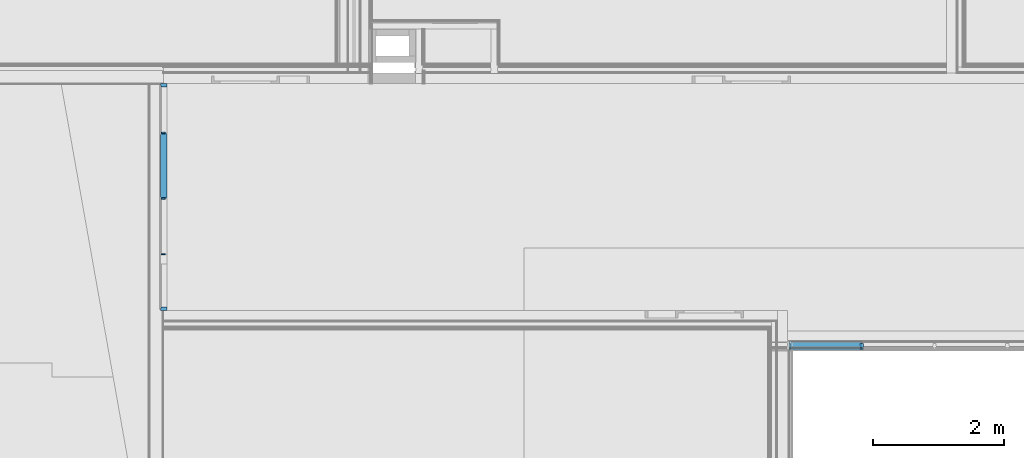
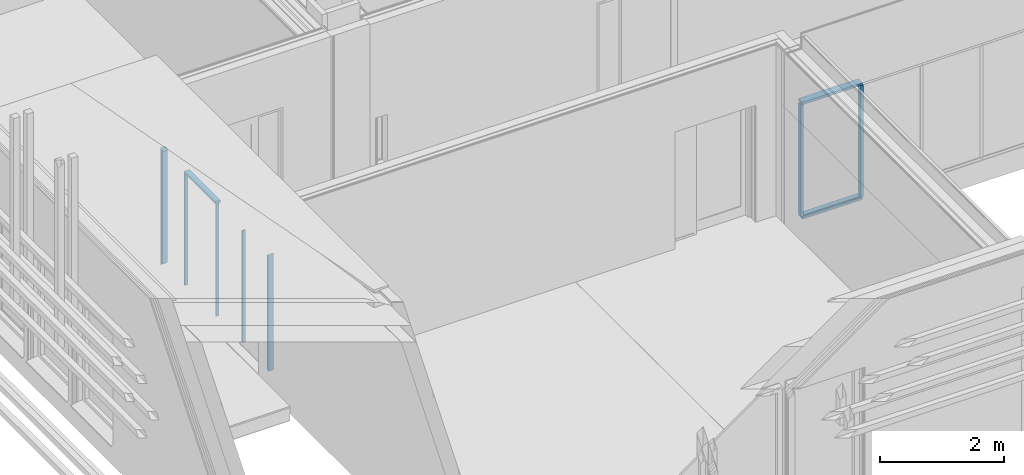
# One storey, part 5 of 139: 10 members, 2 elements without a shape of their own.
"""IFC2X3 building model written with IfcOpenShell, lengths in millimetres."""

from ifc_helpers import new_model, entity, si_unit, converted_unit, derived_unit, money_unit, direction, frame, origin_with_axes, place, context, subcontext, project, spatial, faceted_brep, source, transform, mapped, material, type_object, element, aggregate, save


model = new_model("IFC2X3")

# Units and contexts
model_context = context("Model", 3, precision=0.01, world=origin_with_axes(), true_north=direction((0.0, 1.0)))
body_context = subcontext(model_context, "Body", "Model", "MODEL_VIEW")
ifc_project = project(units=[si_unit("LENGTHUNIT", "METRE", prefix="MILLI"), si_unit("AREAUNIT", "SQUARE_METRE"), si_unit("VOLUMEUNIT", "CUBIC_METRE"), converted_unit("PLANEANGLEUNIT", "DEGREE", entity("IfcPlaneAngleMeasure", 0.0174532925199), si_unit("PLANEANGLEUNIT", "RADIAN"), dimensions=[0, 0, 0, 0, 0, 0, 0]), money_unit("EUR"), converted_unit("TIMEUNIT", "Year", entity("IfcTimeMeasure", 31556926.0), si_unit("TIMEUNIT", "SECOND"), dimensions=[0, 0, 1, 0, 0, 0, 0]), si_unit("MASSUNIT", "GRAM", prefix="KILO"), si_unit("THERMODYNAMICTEMPERATUREUNIT", "DEGREE_CELSIUS"), si_unit("LUMINOUSINTENSITYUNIT", "LUMEN"), si_unit("ENERGYUNIT", "JOULE", prefix="MEGA"), derived_unit("THERMALCONDUCTANCEUNIT", [(si_unit("POWERUNIT", "WATT"), 1), (si_unit("LENGTHUNIT", "METRE"), -1), (si_unit("THERMODYNAMICTEMPERATUREUNIT", "KELVIN"), -1)]), derived_unit("SPECIFICHEATCAPACITYUNIT", [(si_unit("ENERGYUNIT", "JOULE"), 1), (si_unit("MASSUNIT", "GRAM", prefix="KILO"), -1), (si_unit("THERMODYNAMICTEMPERATUREUNIT", "KELVIN"), -1)]), derived_unit("MASSDENSITYUNIT", [(si_unit("MASSUNIT", "GRAM", prefix="KILO"), 1), (si_unit("VOLUMEUNIT", "CUBIC_METRE"), -1)])], contexts=[model_context])

# Site, building, storey
site_placement = place(None, origin_with_axes())
site = spatial("IfcSite", under=ifc_project, at=site_placement, Name="Kolde pst 67a", CompositionType="ELEMENT")
building_placement = place(site_placement, origin_with_axes())
building = spatial("IfcBuilding", under=site, at=building_placement, Name="Riigigümnaasium", CompositionType="ELEMENT")
storey_placement = place(building_placement, frame((0.0, 0.0, 4600.0), z_axis=(0.0, 0.0, 1.0), x_axis=(1.0, 0.0, 0.0)))
storey = spatial("IfcBuildingStorey", under=building, at=storey_placement, Name="2. korrus", CompositionType="ELEMENT", Elevation=4600.0)

# Curtain wall, members
curtain_wall_type = type_object("IfcCurtainWallType", Name="Curtain Wall Type", PredefinedType="NOTDEFINED")
curtain_wall_1_placement = place(storey_placement, frame((3208.80952236, 58094.9979478, 0.0), z_axis=(0.0, 0.0, 1.0), x_axis=(1.0, 0.0, 0.0)))
curtain_wall_1 = element("IfcCurtainWall", 1, at=curtain_wall_1_placement, inside=storey, type_object=curtain_wall_type, Name="KLAASSEIN")
ifc_material_1 = material(Name="_GENEERILINE MATERJAL")
member_type_1 = type_object("IfcMemberType", Name="Boundary Frame 50 x 100", PredefinedType="MEMBER")
shared_shape_1 = source(origin_with_axes(), body_context, "Body", "Brep", [
    faceted_brep([(50.0, -10.0, 50.0), (50.0, -10.0, 2250.0), (50.0, -100.0, 2250.0), (50.0, -100.0, 50.0), (25.0, -10.0, 2275.0), (25.0, -10.0, 25.0), (25.0, 0.0, 2275.0), (0.0, 0.0, 2300.0), (0.0, -100.0, 2300.0), (0.0, -100.0, 0.0), (0.0, 0.0, 0.0), (25.0, 0.0, 25.0)], [[[0, 1, 2, 3]], [[4, 1, 0, 5]], [[4, 6, 7, 8, 2, 1]], [[2, 8, 9, 3]], [[5, 0, 3, 9, 10, 11]], [[11, 6, 4, 5]], [[6, 11, 10, 7]], [[8, 7, 10, 9]]]),
])
member_1_placement = place(curtain_wall_1_placement, frame((0.0, 1255.00000872, 2300.00008941), z_axis=(0.0, 0.0, -1.0), x_axis=(0.0, -1.0, 0.0)))
member_1 = element("IfcMember", 2, at=member_1_placement, type_object=member_type_1, material=ifc_material_1, Name="RF RAAM SERV-196", ObjectType="MEMBER", context=body_context, shape_type="MappedRepresentation", body=[
    mapped(shared_shape_1, transform((0.0, 0.0, 0.0))),
])
member_2_placement = place(curtain_wall_1_placement, frame((0.0, -2205.00352539, 0.0), z_axis=(0.0, 0.0, 1.0), x_axis=(0.0, 1.0, 0.0)))
member_2 = element("IfcMember", 3, at=member_2_placement, type_object=member_type_1, material=ifc_material_1, Name="RF RAAM SERV-201", ObjectType="MEMBER", context=body_context, shape_type="MappedRepresentation", body=[
    mapped(shared_shape_1, transform((0.0, 0.0, 0.0))),
])
member_type_2 = type_object("IfcMemberType", Name="Mullion Frame 20 x 70", PredefinedType="MEMBER")
shared_shape_2 = source(origin_with_axes(), body_context, "Body", "Brep", [
    faceted_brep([(0.0, -10.0, 50.0), (-10.0, -10.0, 50.0), (-10.0, -10.0, 2250.0), (0.0, -10.0, 2250.0), (10.0, -10.0, 2250.0), (10.0, -10.0, 50.0), (10.0, -70.0, 50.0), (-10.0, -70.0, 50.0), (-10.0, -70.0, 2250.0), (10.0, -70.0, 2250.0)], [[[0, 1, 2, 3, 4, 5]], [[1, 0, 5, 6, 7]], [[2, 1, 7, 8]], [[3, 2, 8, 9, 4]], [[4, 9, 6, 5]], [[8, 7, 6, 9]]]),
])
member_3_placement = place(curtain_wall_1_placement, frame((0.0, 500.0, 0.0), z_axis=(0.0, 0.0, 1.0), x_axis=(0.0, 1.0, 0.0)))
member_3 = element("IfcMember", 4, at=member_3_placement, type_object=member_type_2, material=ifc_material_1, Name="RF RAAM VERT-350", ObjectType="MEMBER", context=body_context, shape_type="MappedRepresentation", body=[
    mapped(shared_shape_2, transform((0.0, 0.0, 0.0))),
])
member_4_placement = place(curtain_wall_1_placement, frame((0.0, -500.0, 0.0), z_axis=(0.0, 0.0, 1.0), x_axis=(0.0, 1.0, 0.0)))
member_4 = element("IfcMember", 5, at=member_4_placement, type_object=member_type_2, material=ifc_material_1, Name="RF RAAM VERT-351", ObjectType="MEMBER", context=body_context, shape_type="MappedRepresentation", body=[
    mapped(shared_shape_2, transform((0.0, 0.0, 0.0))),
])
member_5_placement = place(curtain_wall_1_placement, frame((0.0, -1350.00001166, 0.0), z_axis=(0.0, 0.0, 1.0), x_axis=(0.0, 1.0, 0.0)))
member_5 = element("IfcMember", 6, at=member_5_placement, type_object=member_type_2, material=ifc_material_1, Name="RF RAAM VERT-358", ObjectType="MEMBER", context=body_context, shape_type="MappedRepresentation", body=[
    mapped(shared_shape_2, transform((0.0, 0.0, 0.0))),
])
shared_shape_3 = source(origin_with_axes(), body_context, "Body", "Brep", [
    faceted_brep([(-50.0, -10.0, 0.0), (-50.0, -100.0, 0.0), (-50.0, -100.0, 1000.0), (-50.0, -10.0, 1000.0), (-25.0, -10.0, 0.0), (-25.0, 0.0, 0.0), (0.0, 0.0, 0.0), (0.0, -100.0, 0.0), (0.0, -100.0, 1000.0), (-25.0, -10.0, 1000.0), (0.0, 0.0, 1000.0), (-25.0, 0.0, 1000.0)], [[[0, 1, 2, 3]], [[4, 5, 6, 7, 1, 0]], [[1, 7, 8, 2]], [[9, 3, 2, 8, 10, 11]], [[9, 4, 0, 3]], [[5, 4, 9, 11]], [[11, 10, 6, 5]], [[7, 6, 10, 8]]]),
])
member_6_placement = place(curtain_wall_1_placement, frame((0.0, 500.0, 2300.00008941), z_axis=(0.0, -1.0, 0.0), x_axis=(0.0, 0.0, 1.0)))
member_6 = element("IfcMember", 7, at=member_6_placement, type_object=member_type_1, material=ifc_material_1, Name="RF RAAM SERV-204", ObjectType="MEMBER", context=body_context, shape_type="MappedRepresentation", body=[
    mapped(shared_shape_3, transform((0.0, 0.0, 0.0))),
])
aggregate(curtain_wall_1, [member_1, member_6, member_3, member_4, member_2, member_5])

curtain_wall_2_placement = place(storey_placement, frame((15575.0032916, 55314.9743005, 0.0), z_axis=(0.0, 0.0, 1.0), x_axis=(1.0, 0.0, 0.0)))
curtain_wall_2 = element("IfcCurtainWall", 8, at=curtain_wall_2_placement, inside=storey, type_object=curtain_wall_type, Name="KLAASSEIN")
ifc_material_2 = material(Name="_METALL - alumiinium")
member_type_3 = type_object("IfcMemberType", Name="Boundary Frame 50 x 130", PredefinedType="MEMBER")
shared_shape_4 = source(origin_with_axes(), body_context, "Body", "Brep", [
    faceted_brep([(30.0, -10.0, 1110.0), (30.0, 10.0, 1110.0), (50.0, 10.0, 1110.0), (50.0, 30.0, 1110.0), (0.0, 30.0, 1110.0), (0.0, -100.0, 1110.0), (50.0, -100.0, 1110.0), (50.0, -10.0, 1110.0), (30.0, -10.0, 0.0), (30.0, 10.0, 0.0), (50.0, 10.0, 0.0), (50.0, 30.0, 0.0), (0.0, 30.0, 0.0), (0.0, -100.0, 0.0), (50.0, -100.0, 0.0), (50.0, -10.0, 0.0)], [[[0, 1, 2, 3, 4, 5, 6, 7]], [[1, 0, 8, 9]], [[10, 2, 1, 9]], [[2, 10, 11, 3]], [[12, 4, 3, 11]], [[13, 5, 4, 12]], [[14, 6, 5, 13]], [[15, 7, 6, 14]], [[0, 7, 15, 8]], [[8, 15, 14, 13, 12, 11, 10, 9]]]),
])
member_7_placement = place(curtain_wall_2_placement, frame((-1664.99999988, -0.0203706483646, 2300.00008047), z_axis=(-0.999999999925, -1.22346236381e-05, 0.0), x_axis=(0.0, 0.0, 1.0)))
member_7 = element("IfcMember", 9, at=member_7_placement, type_object=member_type_3, material=ifc_material_2, Name="RF RAAM SERV-038", ObjectType="MEMBER", context=body_context, shape_type="MappedRepresentation", body=[
    mapped(shared_shape_4, transform((0.0, 0.0, 0.0), x_axis=(-1.0, 0.0, 0.0), y_axis=(0.0, -1.0, 0.0), z_axis=(0.0, 0.0, 1.0))),
])
shared_shape_5 = source(origin_with_axes(), body_context, "Body", "Brep", [
    faceted_brep([(-30.0, -10.0, 1110.0), (-50.0, -10.0, 1110.0), (-50.0, -100.0, 1110.0), (0.0, -100.0, 1110.0), (0.0, 30.0, 1110.0), (-50.0, 30.0, 1110.0), (-50.0, 10.0, 1110.0), (-30.0, 10.0, 1110.0), (-30.0, -10.0, 0.0), (-50.0, -10.0, 0.0), (-50.0, -100.0, 0.0), (0.0, -100.0, 0.0), (0.0, 30.0, 0.0), (-50.0, 30.0, 0.0), (-50.0, 10.0, 0.0), (-30.0, 10.0, 0.0)], [[[0, 1, 2, 3, 4, 5, 6, 7]], [[0, 8, 9, 1]], [[9, 10, 2, 1]], [[10, 11, 3, 2]], [[11, 12, 4, 3]], [[12, 13, 5, 4]], [[6, 5, 13, 14]], [[14, 15, 7, 6]], [[7, 15, 8, 0]], [[8, 15, 14, 13, 12, 11, 10, 9]]]),
])
member_8_placement = place(curtain_wall_2_placement, frame((-1664.99999988, -0.0203706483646, 0.0), z_axis=(-0.999999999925, -1.22346236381e-05, 0.0), x_axis=(0.0, 0.0, 1.0)))
member_8 = element("IfcMember", 10, at=member_8_placement, type_object=member_type_3, material=ifc_material_2, Name="RF RAAM SERV-034", ObjectType="MEMBER", context=body_context, shape_type="MappedRepresentation", body=[
    mapped(shared_shape_5, transform((0.0, 0.0, 0.0), x_axis=(-1.0, 0.0, 0.0), y_axis=(0.0, -1.0, 0.0), z_axis=(0.0, 0.0, 1.0))),
])
member_type_4 = type_object("IfcMemberType", Name="Mullion Frame 50 x 90", PredefinedType="MEMBER")
shared_shape_6 = source(origin_with_axes(), body_context, "Body", "Brep", [
    faceted_brep([(5.0, -10.0, 2250.00008047), (5.0, 10.0, 2250.00008047), (25.0, 10.0, 2250.00008047), (25.0, 20.0, 2250.00008047), (-25.0, 20.0, 2250.00008047), (-25.0, 10.0, 2250.00008047), (-5.0, 10.0, 2250.00008047), (-5.0, -10.0, 2250.00008047), (-25.0, -10.0, 2250.00008047), (-25.0, -70.0, 2250.00008047), (25.0, -70.0, 2250.00008047), (25.0, -10.0, 2250.00008047), (5.0, -10.0, 50.0), (5.0, 10.0, 50.0), (25.0, 10.0, 50.0), (25.0, 20.0, 50.0), (-25.0, 20.0, 50.0), (-25.0, 10.0, 50.0), (-5.0, 10.0, 50.0), (-5.0, -10.0, 50.0), (-25.0, -10.0, 50.0), (-25.0, -70.0, 50.0), (25.0, -70.0, 50.0), (25.0, -10.0, 50.0)], [[[0, 1, 2, 3, 4, 5, 6, 7, 8, 9, 10, 11]], [[0, 12, 13, 1]], [[1, 13, 14, 2]], [[14, 15, 3, 2]], [[4, 3, 15, 16]], [[17, 5, 4, 16]], [[5, 17, 18, 6]], [[7, 6, 18, 19]], [[8, 7, 19, 20]], [[8, 20, 21, 9]], [[10, 9, 21, 22]], [[11, 10, 22, 23]], [[11, 23, 12, 0]], [[13, 12, 23, 22, 21, 20, 19, 18, 17, 16, 15, 14]]]),
])
member_9_placement = place(curtain_wall_2_placement, frame((-1664.99999988, -0.0203706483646, 0.0), z_axis=(0.0, 0.0, 1.0), x_axis=(0.999999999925, 1.22346236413e-05, 0.0)))
member_9 = element("IfcMember", 11, at=member_9_placement, type_object=member_type_4, material=ifc_material_2, Name="RF RAAM VERT-316", ObjectType="MEMBER", context=body_context, shape_type="MappedRepresentation", body=[
    mapped(shared_shape_6, transform((0.0, 0.0, 0.0), x_axis=(-1.0, 0.0, 0.0), y_axis=(0.0, -1.0, 0.0), z_axis=(0.0, 0.0, 1.0))),
])
member_10_placement = place(curtain_wall_2_placement, frame((-2774.99999979, -0.0339510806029, 0.0), z_axis=(0.0, 0.0, 1.0), x_axis=(0.999999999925, 1.22346236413e-05, 0.0)))
member_10 = element("IfcMember", 12, at=member_10_placement, type_object=member_type_4, material=ifc_material_2, Name="RF RAAM VERT-317", ObjectType="MEMBER", context=body_context, shape_type="MappedRepresentation", body=[
    mapped(shared_shape_6, transform((0.0, 0.0, 0.0), x_axis=(-1.0, 0.0, 0.0), y_axis=(0.0, -1.0, 0.0), z_axis=(0.0, 0.0, 1.0))),
])
aggregate(curtain_wall_2, [member_9, member_10, member_8, member_7])

save(model, "model.ifc")
